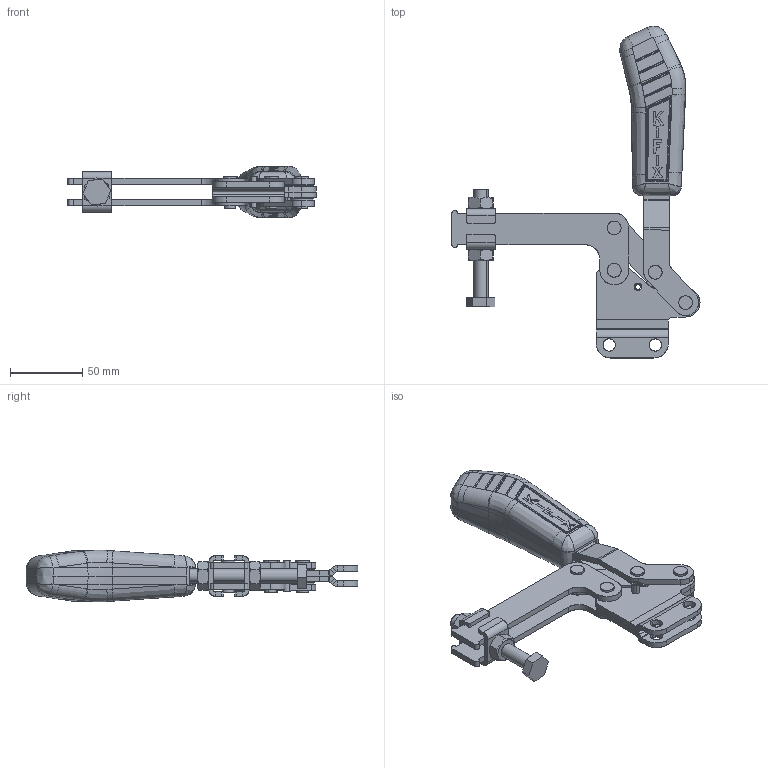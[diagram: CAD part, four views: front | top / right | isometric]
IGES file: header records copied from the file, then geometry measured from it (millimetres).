
Start section: SolidWorks IGES file using analytic representation for surfaces
Global section: file name: C:\Projetos\Grampos\KF-631\KF-631 RIL\KF-631 RIL.IGS; native system: SolidWorks 2013; preprocessor: SolidWorks 2013; author: Ricardo; date: 140801.160554; units: millimetre
Bounding box: 172.01 x 230.21 x 35.98 mm (x, y, z)
Surface area: 88767.1 mm2 (no closed solid volume)
Topology: 0 solids, 0 shells, 894 faces, 10110 edges, 10083 vertices
Faces by surface type: bspline 471, revolution 423
